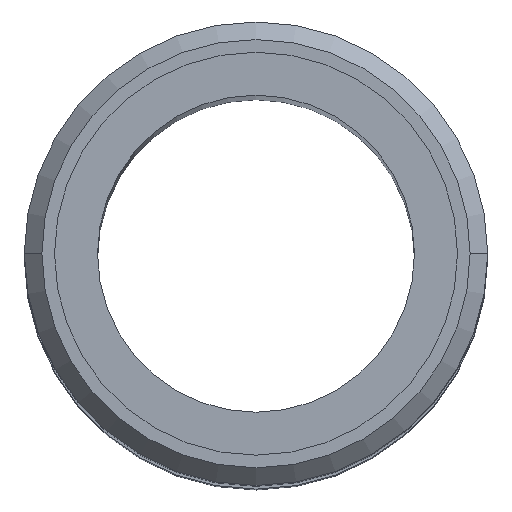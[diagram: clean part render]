
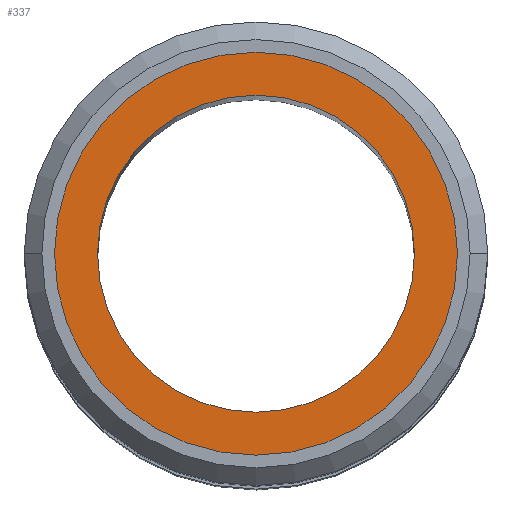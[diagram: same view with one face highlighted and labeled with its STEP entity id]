
A CAD part, top view. The second image highlights one B-rep face of the part: STEP entity #337.
In plain terms, the highlighted planar face has unit normal (0, 0, 1).
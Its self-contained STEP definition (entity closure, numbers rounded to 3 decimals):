
#34 = CARTESIAN_POINT ( 'NONE',  ( 5.72, 0., 75. ) ) ;
#40 = PLANE ( 'NONE',  #1165 ) ;
#73 = DIRECTION ( 'NONE',  ( 0., 0., -1. ) ) ;
#81 = DIRECTION ( 'NONE',  ( -1., 0., 0. ) ) ;
#91 = EDGE_CURVE ( 'NONE', #781, #328, #295, .T. ) ;
#139 = CARTESIAN_POINT ( 'NONE',  ( -5.72, 0., 75. ) ) ;
#147 = EDGE_LOOP ( 'NONE', ( #440, #442 ) ) ;
#151 = CARTESIAN_POINT ( 'NONE',  ( 0., 0., 75. ) ) ;
#204 = FACE_BOUND ( 'NONE', #627, .T. ) ;
#205 = CIRCLE ( 'NONE', #1054, 4.5 ) ;
#217 = FACE_OUTER_BOUND ( 'NONE', #147, .T. ) ;
#220 = AXIS2_PLACEMENT_3D ( 'NONE', #371, #364, #360 ) ;
#226 = EDGE_CURVE ( 'NONE', #826, #264, #205, .T. ) ;
#250 = AXIS2_PLACEMENT_3D ( 'NONE', #512, #450, #504 ) ;
#252 = CIRCLE ( 'NONE', #250, 5.72 ) ;
#264 = VERTEX_POINT ( 'NONE', #437 ) ;
#295 = CIRCLE ( 'NONE', #523, 5.72 ) ;
#314 = CARTESIAN_POINT ( 'NONE',  ( 4.5, 0., 75. ) ) ;
#328 = VERTEX_POINT ( 'NONE', #139 ) ;
#337 = ADVANCED_FACE ( 'NONE', ( #204, #217 ), #40, .T. ) ;
#360 = DIRECTION ( 'NONE',  ( -1., 0., 0. ) ) ;
#364 = DIRECTION ( 'NONE',  ( 0., 0., -1. ) ) ;
#365 = ORIENTED_EDGE ( 'NONE', *, *, #226, .T. ) ;
#371 = CARTESIAN_POINT ( 'NONE',  ( 0., 0., 75. ) ) ;
#399 = CARTESIAN_POINT ( 'NONE',  ( 5.72, 0., 75. ) ) ;
#430 = DIRECTION ( 'NONE',  ( -1., 0., 0. ) ) ;
#433 = DIRECTION ( 'NONE',  ( 0., 0., -1. ) ) ;
#434 = CARTESIAN_POINT ( 'NONE',  ( 0., 0., 75. ) ) ;
#437 = CARTESIAN_POINT ( 'NONE',  ( -4.5, 0., 75. ) ) ;
#440 = ORIENTED_EDGE ( 'NONE', *, *, #654, .F. ) ;
#442 = ORIENTED_EDGE ( 'NONE', *, *, #91, .F. ) ;
#450 = DIRECTION ( 'NONE',  ( 0., 0., -1. ) ) ;
#504 = DIRECTION ( 'NONE',  ( -1., 0., 0. ) ) ;
#512 = CARTESIAN_POINT ( 'NONE',  ( 0., 0., 75. ) ) ;
#523 = AXIS2_PLACEMENT_3D ( 'NONE', #151, #73, #81 ) ;
#627 = EDGE_LOOP ( 'NONE', ( #795, #365 ) ) ;
#654 = EDGE_CURVE ( 'NONE', #328, #781, #252, .T. ) ;
#776 = EDGE_CURVE ( 'NONE', #264, #826, #1211, .T. ) ;
#781 = VERTEX_POINT ( 'NONE', #399 ) ;
#795 = ORIENTED_EDGE ( 'NONE', *, *, #776, .T. ) ;
#826 = VERTEX_POINT ( 'NONE', #314 ) ;
#1054 = AXIS2_PLACEMENT_3D ( 'NONE', #434, #433, #430 ) ;
#1165 = AXIS2_PLACEMENT_3D ( 'NONE', #34, #1231, #1203 ) ;
#1203 = DIRECTION ( 'NONE',  ( 1., 0., 0. ) ) ;
#1211 = CIRCLE ( 'NONE', #220, 4.5 ) ;
#1231 = DIRECTION ( 'NONE',  ( 0., 0., 1. ) ) ;
